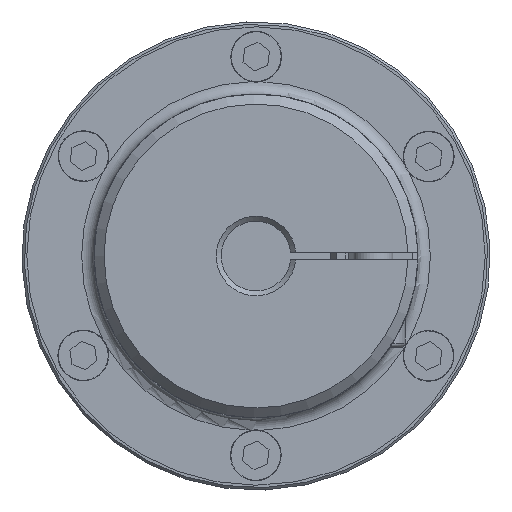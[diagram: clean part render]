
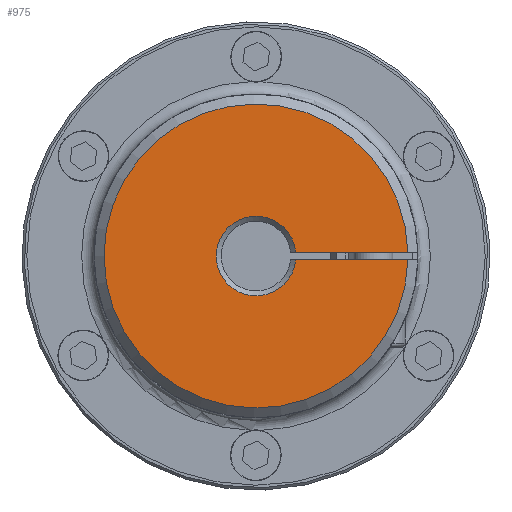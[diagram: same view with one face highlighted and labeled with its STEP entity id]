
A CAD part, left-side view. The second image highlights one B-rep face of the part: STEP entity #975.
In plain terms, the highlighted planar face has unit normal (-1, 0, 0) as drawn and (0, 0, -1) by its records, which use the part's own axes.
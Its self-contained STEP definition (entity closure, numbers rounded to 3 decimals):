
#975 = ADVANCED_FACE( '', ( #2058 ), #2059, .T. );
#2058 = FACE_OUTER_BOUND( '', #3552, .T. );
#2059 = PLANE( '', #3553 );
#3552 = EDGE_LOOP( '', ( #4977, #4978, #4979, #4980 ) );
#3553 = AXIS2_PLACEMENT_3D( '', #4981, #4982, #4983 );
#4977 = ORIENTED_EDGE( '', *, *, #7843, .F. );
#4978 = ORIENTED_EDGE( '', *, *, #7798, .T. );
#4979 = ORIENTED_EDGE( '', *, *, #7844, .T. );
#4980 = ORIENTED_EDGE( '', *, *, #7845, .T. );
#4981 = CARTESIAN_POINT( '', ( 0., 0., 0. ) );
#4982 = DIRECTION( '', ( 0., 0., -1. ) );
#4983 = DIRECTION( '', ( -1., 0., 0. ) );
#7798 = EDGE_CURVE( '', #8930, #8934, #8936, .T. );
#7843 = EDGE_CURVE( '', #8930, #9009, #9010, .T. );
#7844 = EDGE_CURVE( '', #8934, #9011, #9012, .T. );
#7845 = EDGE_CURVE( '', #9011, #9009, #9013, .F. );
#8930 = VERTEX_POINT( '', #10574 );
#8934 = VERTEX_POINT( '', #10581 );
#8936 = CIRCLE( '', #10586, 30.5 );
#9009 = VERTEX_POINT( '', #10696 );
#9010 = LINE( '', #10697, #10698 );
#9011 = VERTEX_POINT( '', #10699 );
#9012 = LINE( '', #10700, #10701 );
#9013 = CIRCLE( '', #10702, 8. );
#10574 = CARTESIAN_POINT( '', ( -30.491, 0.75, 0. ) );
#10581 = CARTESIAN_POINT( '', ( -30.491, -0.75, 0. ) );
#10586 = AXIS2_PLACEMENT_3D( '', #13289, #13290, #13291 );
#10696 = CARTESIAN_POINT( '', ( -7.965, 0.75, 0. ) );
#10697 = CARTESIAN_POINT( '', ( -32.5, 0.75, 0. ) );
#10698 = VECTOR( '', #13350, 1000. );
#10699 = CARTESIAN_POINT( '', ( -7.965, -0.75, 0. ) );
#10700 = CARTESIAN_POINT( '', ( -32.5, -0.75, 0. ) );
#10701 = VECTOR( '', #13351, 1000. );
#10702 = AXIS2_PLACEMENT_3D( '', #13352, #13353, #13354 );
#13289 = CARTESIAN_POINT( '', ( 0., 0., 0. ) );
#13290 = DIRECTION( '', ( 0., 0., -1. ) );
#13291 = DIRECTION( '', ( -1., 0., 0. ) );
#13350 = DIRECTION( '', ( 1., 0., 0. ) );
#13351 = DIRECTION( '', ( 1., 0., 0. ) );
#13352 = CARTESIAN_POINT( '', ( 0., 0., 0. ) );
#13353 = DIRECTION( '', ( 0., 0., -1. ) );
#13354 = DIRECTION( '', ( -1., 0., 0. ) );
